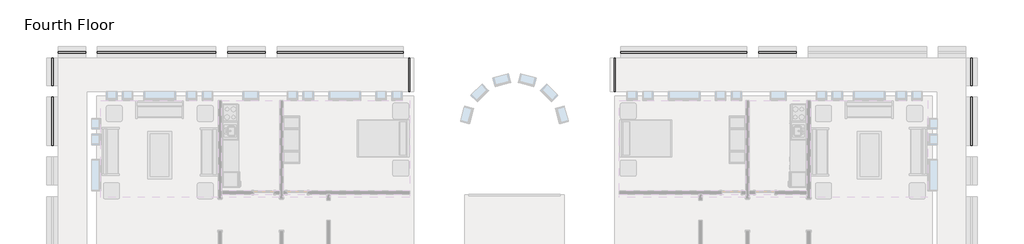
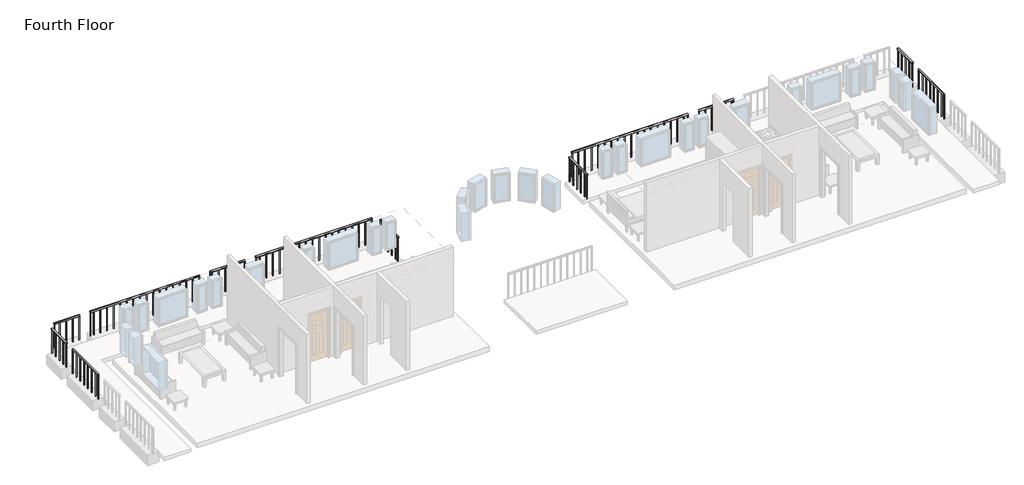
# One storey, part 6 of 8: 12 railings.
"""IFC4 building model written with IfcOpenShell, lengths in millimetres."""

from ifc_helpers import new_model, si_unit, frame, origin, place, context, project, spatial, polyline, outline, extrude, element, save

model = new_model("IFC4")

# Units and contexts
model_context = context("Model", 3, world=origin())
ifc_project = project(units=[si_unit("LENGTHUNIT", "METRE", prefix="MILLI")], contexts=[model_context])

# Site, building, storey
site = spatial("IfcSite", under=ifc_project)
building = spatial("IfcBuilding", under=site)
storey = spatial("IfcBuildingStorey", under=building, Name="Fourth Floor", Elevation=9144.0)

# Railings
placement = place(None, origin())
element("IfcRailing", 1, ObjectType="1100mm", at=placement, inside=storey, context=model_context, shape_type="SweptSolid", body=[
    extrude(outline(polyline([(-14885.3416203, 4231.1188386), (-14885.3416203, 4281.1188386), (-10043.3416203, 4281.1188386), (-10043.3416203, 4231.1188386), (-14885.3416203, 4231.1188386)])), frame((0.0, 0.0, 10194.0), z_axis=(0.0, 0.0, 1.0), x_axis=(1.0, 0.0, 0.0)), (0.0, 0.0, 1.0), 50.0),
    extrude(outline(polyline([(-10222.8416203, 4243.6188386), (-10222.8416203, 4268.6188386), (-10197.8416203, 4268.6188386), (-10197.8416203, 4243.6188386), (-10222.8416203, 4243.6188386)])), frame((0.0, 0.0, 9144.0), z_axis=(0.0, 0.0, 1.0), x_axis=(1.0, 0.0, 0.0)), (0.0, 0.0, 1.0), 1050.0),
    extrude(outline(polyline([(-10497.8416203, 4243.6188386), (-10497.8416203, 4268.6188386), (-10472.8416203, 4268.6188386), (-10472.8416203, 4243.6188386), (-10497.8416203, 4243.6188386)])), frame((0.0, 0.0, 9144.0), z_axis=(0.0, 0.0, 1.0), x_axis=(1.0, 0.0, 0.0)), (0.0, 0.0, 1.0), 1050.0),
    extrude(outline(polyline([(-10772.8416203, 4243.6188386), (-10772.8416203, 4268.6188386), (-10747.8416203, 4268.6188386), (-10747.8416203, 4243.6188386), (-10772.8416203, 4243.6188386)])), frame((0.0, 0.0, 9144.0), z_axis=(0.0, 0.0, 1.0), x_axis=(1.0, 0.0, 0.0)), (0.0, 0.0, 1.0), 1050.0),
    extrude(outline(polyline([(-11047.8416203, 4243.6188386), (-11047.8416203, 4268.6188386), (-11022.8416203, 4268.6188386), (-11022.8416203, 4243.6188386), (-11047.8416203, 4243.6188386)])), frame((0.0, 0.0, 9144.0), z_axis=(0.0, 0.0, 1.0), x_axis=(1.0, 0.0, 0.0)), (0.0, 0.0, 1.0), 1050.0),
    extrude(outline(polyline([(-11322.8416203, 4243.6188386), (-11322.8416203, 4268.6188386), (-11297.8416203, 4268.6188386), (-11297.8416203, 4243.6188386), (-11322.8416203, 4243.6188386)])), frame((0.0, 0.0, 9144.0), z_axis=(0.0, 0.0, 1.0), x_axis=(1.0, 0.0, 0.0)), (0.0, 0.0, 1.0), 1050.0),
    extrude(outline(polyline([(-11597.8416203, 4243.6188386), (-11597.8416203, 4268.6188386), (-11572.8416203, 4268.6188386), (-11572.8416203, 4243.6188386), (-11597.8416203, 4243.6188386)])), frame((0.0, 0.0, 9144.0), z_axis=(0.0, 0.0, 1.0), x_axis=(1.0, 0.0, 0.0)), (0.0, 0.0, 1.0), 1050.0),
    extrude(outline(polyline([(-11872.8416203, 4243.6188386), (-11872.8416203, 4268.6188386), (-11847.8416203, 4268.6188386), (-11847.8416203, 4243.6188386), (-11872.8416203, 4243.6188386)])), frame((0.0, 0.0, 9144.0), z_axis=(0.0, 0.0, 1.0), x_axis=(1.0, 0.0, 0.0)), (0.0, 0.0, 1.0), 1050.0),
    extrude(outline(polyline([(-12147.8416203, 4243.6188386), (-12147.8416203, 4268.6188386), (-12122.8416203, 4268.6188386), (-12122.8416203, 4243.6188386), (-12147.8416203, 4243.6188386)])), frame((0.0, 0.0, 9144.0), z_axis=(0.0, 0.0, 1.0), x_axis=(1.0, 0.0, 0.0)), (0.0, 0.0, 1.0), 1050.0),
    extrude(outline(polyline([(-12422.8416203, 4243.6188386), (-12422.8416203, 4268.6188386), (-12397.8416203, 4268.6188386), (-12397.8416203, 4243.6188386), (-12422.8416203, 4243.6188386)])), frame((0.0, 0.0, 9144.0), z_axis=(0.0, 0.0, 1.0), x_axis=(1.0, 0.0, 0.0)), (0.0, 0.0, 1.0), 1050.0),
    extrude(outline(polyline([(-12697.8416203, 4243.6188386), (-12697.8416203, 4268.6188386), (-12672.8416203, 4268.6188386), (-12672.8416203, 4243.6188386), (-12697.8416203, 4243.6188386)])), frame((0.0, 0.0, 9144.0), z_axis=(0.0, 0.0, 1.0), x_axis=(1.0, 0.0, 0.0)), (0.0, 0.0, 1.0), 1050.0),
    extrude(outline(polyline([(-12972.8416203, 4243.6188386), (-12972.8416203, 4268.6188386), (-12947.8416203, 4268.6188386), (-12947.8416203, 4243.6188386), (-12972.8416203, 4243.6188386)])), frame((0.0, 0.0, 9144.0), z_axis=(0.0, 0.0, 1.0), x_axis=(1.0, 0.0, 0.0)), (0.0, 0.0, 1.0), 1050.0),
    extrude(outline(polyline([(-13247.8416203, 4243.6188386), (-13247.8416203, 4268.6188386), (-13222.8416203, 4268.6188386), (-13222.8416203, 4243.6188386), (-13247.8416203, 4243.6188386)])), frame((0.0, 0.0, 9144.0), z_axis=(0.0, 0.0, 1.0), x_axis=(1.0, 0.0, 0.0)), (0.0, 0.0, 1.0), 1050.0),
    extrude(outline(polyline([(-13522.8416203, 4243.6188386), (-13522.8416203, 4268.6188386), (-13497.8416203, 4268.6188386), (-13497.8416203, 4243.6188386), (-13522.8416203, 4243.6188386)])), frame((0.0, 0.0, 9144.0), z_axis=(0.0, 0.0, 1.0), x_axis=(1.0, 0.0, 0.0)), (0.0, 0.0, 1.0), 1050.0),
    extrude(outline(polyline([(-13797.8416203, 4243.6188386), (-13797.8416203, 4268.6188386), (-13772.8416203, 4268.6188386), (-13772.8416203, 4243.6188386), (-13797.8416203, 4243.6188386)])), frame((0.0, 0.0, 9144.0), z_axis=(0.0, 0.0, 1.0), x_axis=(1.0, 0.0, 0.0)), (0.0, 0.0, 1.0), 1050.0),
    extrude(outline(polyline([(-14072.8416203, 4243.6188386), (-14072.8416203, 4268.6188386), (-14047.8416203, 4268.6188386), (-14047.8416203, 4243.6188386), (-14072.8416203, 4243.6188386)])), frame((0.0, 0.0, 9144.0), z_axis=(0.0, 0.0, 1.0), x_axis=(1.0, 0.0, 0.0)), (0.0, 0.0, 1.0), 1050.0),
    extrude(outline(polyline([(-14347.8416203, 4243.6188386), (-14347.8416203, 4268.6188386), (-14322.8416203, 4268.6188386), (-14322.8416203, 4243.6188386), (-14347.8416203, 4243.6188386)])), frame((0.0, 0.0, 9144.0), z_axis=(0.0, 0.0, 1.0), x_axis=(1.0, 0.0, 0.0)), (0.0, 0.0, 1.0), 1050.0),
    extrude(outline(polyline([(-14622.8416203, 4243.6188386), (-14622.8416203, 4268.6188386), (-14597.8416203, 4268.6188386), (-14597.8416203, 4243.6188386), (-14622.8416203, 4243.6188386)])), frame((0.0, 0.0, 9144.0), z_axis=(0.0, 0.0, 1.0), x_axis=(1.0, 0.0, 0.0)), (0.0, 0.0, 1.0), 1050.0),
    extrude(outline(polyline([(-10068.3416203, 4243.6188386), (-10068.3416203, 4268.6188386), (-10043.3416203, 4268.6188386), (-10043.3416203, 4243.6188386), (-10068.3416203, 4243.6188386)])), frame((0.0, 0.0, 9144.0), z_axis=(0.0, 0.0, 1.0), x_axis=(1.0, 0.0, 0.0)), (0.0, 0.0, 1.0), 1050.0),
    extrude(outline(polyline([(-14885.3416203, 4243.6188386), (-14885.3416203, 4268.6188386), (-14860.3416203, 4268.6188386), (-14860.3416203, 4243.6188386), (-14885.3416203, 4243.6188386)])), frame((0.0, 0.0, 9144.0), z_axis=(0.0, 0.0, 1.0), x_axis=(1.0, 0.0, 0.0)), (0.0, 0.0, 1.0), 1050.0),
])
element("IfcRailing", 2, ObjectType="1100mm", at=placement, inside=storey, context=model_context, shape_type="SweptSolid", body=[
    extrude(outline(polyline([(-9593.3416203, 4231.1188386), (-9593.3416203, 4281.1188386), (-8143.3416203, 4281.1188386), (-8143.3416203, 4231.1188386), (-9593.3416203, 4231.1188386)])), frame((0.0, 0.0, 10194.0), z_axis=(0.0, 0.0, 1.0), x_axis=(1.0, 0.0, 0.0)), (0.0, 0.0, 1.0), 50.0),
    extrude(outline(polyline([(-8230.8416203, 4243.6188386), (-8230.8416203, 4268.6188386), (-8205.8416203, 4268.6188386), (-8205.8416203, 4243.6188386), (-8230.8416203, 4243.6188386)])), frame((0.0, 0.0, 9144.0), z_axis=(0.0, 0.0, 1.0), x_axis=(1.0, 0.0, 0.0)), (0.0, 0.0, 1.0), 1050.0),
    extrude(outline(polyline([(-8505.8416203, 4243.6188386), (-8505.8416203, 4268.6188386), (-8480.8416203, 4268.6188386), (-8480.8416203, 4243.6188386), (-8505.8416203, 4243.6188386)])), frame((0.0, 0.0, 9144.0), z_axis=(0.0, 0.0, 1.0), x_axis=(1.0, 0.0, 0.0)), (0.0, 0.0, 1.0), 1050.0),
    extrude(outline(polyline([(-8780.8416203, 4243.6188386), (-8780.8416203, 4268.6188386), (-8755.8416203, 4268.6188386), (-8755.8416203, 4243.6188386), (-8780.8416203, 4243.6188386)])), frame((0.0, 0.0, 9144.0), z_axis=(0.0, 0.0, 1.0), x_axis=(1.0, 0.0, 0.0)), (0.0, 0.0, 1.0), 1050.0),
    extrude(outline(polyline([(-9055.8416203, 4243.6188386), (-9055.8416203, 4268.6188386), (-9030.8416203, 4268.6188386), (-9030.8416203, 4243.6188386), (-9055.8416203, 4243.6188386)])), frame((0.0, 0.0, 9144.0), z_axis=(0.0, 0.0, 1.0), x_axis=(1.0, 0.0, 0.0)), (0.0, 0.0, 1.0), 1050.0),
    extrude(outline(polyline([(-9330.8416203, 4243.6188386), (-9330.8416203, 4268.6188386), (-9305.8416203, 4268.6188386), (-9305.8416203, 4243.6188386), (-9330.8416203, 4243.6188386)])), frame((0.0, 0.0, 9144.0), z_axis=(0.0, 0.0, 1.0), x_axis=(1.0, 0.0, 0.0)), (0.0, 0.0, 1.0), 1050.0),
    extrude(outline(polyline([(-8168.3416203, 4243.6188386), (-8168.3416203, 4268.6188386), (-8143.3416203, 4268.6188386), (-8143.3416203, 4243.6188386), (-8168.3416203, 4243.6188386)])), frame((0.0, 0.0, 9144.0), z_axis=(0.0, 0.0, 1.0), x_axis=(1.0, 0.0, 0.0)), (0.0, 0.0, 1.0), 1050.0),
    extrude(outline(polyline([(-9593.3416203, 4243.6188386), (-9593.3416203, 4268.6188386), (-9568.3416203, 4268.6188386), (-9568.3416203, 4243.6188386), (-9593.3416203, 4243.6188386)])), frame((0.0, 0.0, 9144.0), z_axis=(0.0, 0.0, 1.0), x_axis=(1.0, 0.0, 0.0)), (0.0, 0.0, 1.0), 1050.0),
])
element("IfcRailing", 3, ObjectType="1100mm", at=placement, inside=storey, context=model_context, shape_type="SweptSolid", body=[
    extrude(outline(polyline([(-1443.3416203, 4031.1188386), (-1393.3416203, 4031.1188386), (-1393.3416203, 2981.1188386), (-1443.3416203, 2981.1188386), (-1443.3416203, 4031.1188386)])), frame((0.0, 0.0, 10194.0), z_axis=(0.0, 0.0, 1.0), x_axis=(1.0, 0.0, 0.0)), (0.0, 0.0, 1.0), 50.0),
    extrude(outline(polyline([(-1430.8416203, 3218.6188386), (-1405.8416203, 3218.6188386), (-1405.8416203, 3193.6188386), (-1430.8416203, 3193.6188386), (-1430.8416203, 3218.6188386)])), frame((0.0, 0.0, 9144.0), z_axis=(0.0, 0.0, 1.0), x_axis=(1.0, 0.0, 0.0)), (0.0, 0.0, 1.0), 1050.0),
    extrude(outline(polyline([(-1430.8416203, 3493.6188386), (-1405.8416203, 3493.6188386), (-1405.8416203, 3468.6188386), (-1430.8416203, 3468.6188386), (-1430.8416203, 3493.6188386)])), frame((0.0, 0.0, 9144.0), z_axis=(0.0, 0.0, 1.0), x_axis=(1.0, 0.0, 0.0)), (0.0, 0.0, 1.0), 1050.0),
    extrude(outline(polyline([(-1430.8416203, 3768.6188386), (-1405.8416203, 3768.6188386), (-1405.8416203, 3743.6188386), (-1430.8416203, 3743.6188386), (-1430.8416203, 3768.6188386)])), frame((0.0, 0.0, 9144.0), z_axis=(0.0, 0.0, 1.0), x_axis=(1.0, 0.0, 0.0)), (0.0, 0.0, 1.0), 1050.0),
    extrude(outline(polyline([(-1430.8416203, 3006.1188386), (-1405.8416203, 3006.1188386), (-1405.8416203, 2981.1188386), (-1430.8416203, 2981.1188386), (-1430.8416203, 3006.1188386)])), frame((0.0, 0.0, 9144.0), z_axis=(0.0, 0.0, 1.0), x_axis=(1.0, 0.0, 0.0)), (0.0, 0.0, 1.0), 1050.0),
    extrude(outline(polyline([(-1430.8416203, 4031.1188386), (-1405.8416203, 4031.1188386), (-1405.8416203, 4006.1188386), (-1430.8416203, 4006.1188386), (-1430.8416203, 4031.1188386)])), frame((0.0, 0.0, 9144.0), z_axis=(0.0, 0.0, 1.0), x_axis=(1.0, 0.0, 0.0)), (0.0, 0.0, 1.0), 1050.0),
])
element("IfcRailing", 4, ObjectType="1100mm", at=placement, inside=storey, context=model_context, shape_type="SweptSolid", body=[
    extrude(outline(polyline([(-1443.3416203, 2531.1188386), (-1393.3416203, 2531.1188386), (-1393.3416203, 681.1188386), (-1443.3416203, 681.1188386), (-1443.3416203, 2531.1188386)])), frame((0.0, 0.0, 10194.0), z_axis=(0.0, 0.0, 1.0), x_axis=(1.0, 0.0, 0.0)), (0.0, 0.0, 1.0), 50.0),
    extrude(outline(polyline([(-1430.8416203, 893.6188386), (-1405.8416203, 893.6188386), (-1405.8416203, 868.6188386), (-1430.8416203, 868.6188386), (-1430.8416203, 893.6188386)])), frame((0.0, 0.0, 9144.0), z_axis=(0.0, 0.0, 1.0), x_axis=(1.0, 0.0, 0.0)), (0.0, 0.0, 1.0), 1050.0),
    extrude(outline(polyline([(-1430.8416203, 1168.6188386), (-1405.8416203, 1168.6188386), (-1405.8416203, 1143.6188386), (-1430.8416203, 1143.6188386), (-1430.8416203, 1168.6188386)])), frame((0.0, 0.0, 9144.0), z_axis=(0.0, 0.0, 1.0), x_axis=(1.0, 0.0, 0.0)), (0.0, 0.0, 1.0), 1050.0),
    extrude(outline(polyline([(-1430.8416203, 1443.6188386), (-1405.8416203, 1443.6188386), (-1405.8416203, 1418.6188386), (-1430.8416203, 1418.6188386), (-1430.8416203, 1443.6188386)])), frame((0.0, 0.0, 9144.0), z_axis=(0.0, 0.0, 1.0), x_axis=(1.0, 0.0, 0.0)), (0.0, 0.0, 1.0), 1050.0),
    extrude(outline(polyline([(-1430.8416203, 1718.6188386), (-1405.8416203, 1718.6188386), (-1405.8416203, 1693.6188386), (-1430.8416203, 1693.6188386), (-1430.8416203, 1718.6188386)])), frame((0.0, 0.0, 9144.0), z_axis=(0.0, 0.0, 1.0), x_axis=(1.0, 0.0, 0.0)), (0.0, 0.0, 1.0), 1050.0),
    extrude(outline(polyline([(-1430.8416203, 1993.6188386), (-1405.8416203, 1993.6188386), (-1405.8416203, 1968.6188386), (-1430.8416203, 1968.6188386), (-1430.8416203, 1993.6188386)])), frame((0.0, 0.0, 9144.0), z_axis=(0.0, 0.0, 1.0), x_axis=(1.0, 0.0, 0.0)), (0.0, 0.0, 1.0), 1050.0),
    extrude(outline(polyline([(-1430.8416203, 2268.6188386), (-1405.8416203, 2268.6188386), (-1405.8416203, 2243.6188386), (-1430.8416203, 2243.6188386), (-1430.8416203, 2268.6188386)])), frame((0.0, 0.0, 9144.0), z_axis=(0.0, 0.0, 1.0), x_axis=(1.0, 0.0, 0.0)), (0.0, 0.0, 1.0), 1050.0),
    extrude(outline(polyline([(-1430.8416203, 706.1188386), (-1405.8416203, 706.1188386), (-1405.8416203, 681.1188386), (-1430.8416203, 681.1188386), (-1430.8416203, 706.1188386)])), frame((0.0, 0.0, 9144.0), z_axis=(0.0, 0.0, 1.0), x_axis=(1.0, 0.0, 0.0)), (0.0, 0.0, 1.0), 1050.0),
    extrude(outline(polyline([(-1430.8416203, 2531.1188386), (-1405.8416203, 2531.1188386), (-1405.8416203, 2506.1188386), (-1430.8416203, 2506.1188386), (-1430.8416203, 2531.1188386)])), frame((0.0, 0.0, 9144.0), z_axis=(0.0, 0.0, 1.0), x_axis=(1.0, 0.0, 0.0)), (0.0, 0.0, 1.0), 1050.0),
])
element("IfcRailing", 5, ObjectType="1100mm", at=placement, inside=storey, context=model_context, shape_type="SweptSolid", body=[
    extrude(outline(polyline([(-15135.3416203, 4031.1188386), (-15085.3416203, 4031.1188386), (-15085.3416203, 2756.1188386), (-15135.3416203, 2756.1188386), (-15135.3416203, 4031.1188386)])), frame((0.0, 0.0, 10194.0), z_axis=(0.0, 0.0, 1.0), x_axis=(1.0, 0.0, 0.0)), (0.0, 0.0, 1.0), 50.0),
    extrude(outline(polyline([(-15122.8416203, 2943.6188386), (-15097.8416203, 2943.6188386), (-15097.8416203, 2918.6188386), (-15122.8416203, 2918.6188386), (-15122.8416203, 2943.6188386)])), frame((0.0, 0.0, 9144.0), z_axis=(0.0, 0.0, 1.0), x_axis=(1.0, 0.0, 0.0)), (0.0, 0.0, 1.0), 1050.0),
    extrude(outline(polyline([(-15122.8416203, 3218.6188386), (-15097.8416203, 3218.6188386), (-15097.8416203, 3193.6188386), (-15122.8416203, 3193.6188386), (-15122.8416203, 3218.6188386)])), frame((0.0, 0.0, 9144.0), z_axis=(0.0, 0.0, 1.0), x_axis=(1.0, 0.0, 0.0)), (0.0, 0.0, 1.0), 1050.0),
    extrude(outline(polyline([(-15122.8416203, 3493.6188386), (-15097.8416203, 3493.6188386), (-15097.8416203, 3468.6188386), (-15122.8416203, 3468.6188386), (-15122.8416203, 3493.6188386)])), frame((0.0, 0.0, 9144.0), z_axis=(0.0, 0.0, 1.0), x_axis=(1.0, 0.0, 0.0)), (0.0, 0.0, 1.0), 1050.0),
    extrude(outline(polyline([(-15122.8416203, 3768.6188386), (-15097.8416203, 3768.6188386), (-15097.8416203, 3743.6188386), (-15122.8416203, 3743.6188386), (-15122.8416203, 3768.6188386)])), frame((0.0, 0.0, 9144.0), z_axis=(0.0, 0.0, 1.0), x_axis=(1.0, 0.0, 0.0)), (0.0, 0.0, 1.0), 1050.0),
    extrude(outline(polyline([(-15122.8416203, 2781.1188386), (-15097.8416203, 2781.1188386), (-15097.8416203, 2756.1188386), (-15122.8416203, 2756.1188386), (-15122.8416203, 2781.1188386)])), frame((0.0, 0.0, 9144.0), z_axis=(0.0, 0.0, 1.0), x_axis=(1.0, 0.0, 0.0)), (0.0, 0.0, 1.0), 1050.0),
    extrude(outline(polyline([(-15122.8416203, 4031.1188386), (-15097.8416203, 4031.1188386), (-15097.8416203, 4006.1188386), (-15122.8416203, 4006.1188386), (-15122.8416203, 4031.1188386)])), frame((0.0, 0.0, 9144.0), z_axis=(0.0, 0.0, 1.0), x_axis=(1.0, 0.0, 0.0)), (0.0, 0.0, 1.0), 1050.0),
])
element("IfcRailing", 6, ObjectType="1100mm", at=placement, inside=storey, context=model_context, shape_type="SweptSolid", body=[
    extrude(outline(polyline([(-23216.8416203, 4281.1188386), (-23216.8416203, 4231.1188386), (-28058.8416203, 4231.1188386), (-28058.8416203, 4281.1188386), (-23216.8416203, 4281.1188386)])), frame((0.0, 0.0, 10194.0), z_axis=(0.0, 0.0, 1.0), x_axis=(1.0, 0.0, 0.0)), (0.0, 0.0, 1.0), 50.0),
    extrude(outline(polyline([(-27879.3416203, 4243.6188386), (-27904.3416203, 4243.6188386), (-27904.3416203, 4268.6188386), (-27879.3416203, 4268.6188386), (-27879.3416203, 4243.6188386)])), frame((0.0, 0.0, 9144.0), z_axis=(0.0, 0.0, 1.0), x_axis=(1.0, 0.0, 0.0)), (0.0, 0.0, 1.0), 1050.0),
    extrude(outline(polyline([(-27604.3416203, 4243.6188386), (-27629.3416203, 4243.6188386), (-27629.3416203, 4268.6188386), (-27604.3416203, 4268.6188386), (-27604.3416203, 4243.6188386)])), frame((0.0, 0.0, 9144.0), z_axis=(0.0, 0.0, 1.0), x_axis=(1.0, 0.0, 0.0)), (0.0, 0.0, 1.0), 1050.0),
    extrude(outline(polyline([(-27329.3416203, 4243.6188386), (-27354.3416203, 4243.6188386), (-27354.3416203, 4268.6188386), (-27329.3416203, 4268.6188386), (-27329.3416203, 4243.6188386)])), frame((0.0, 0.0, 9144.0), z_axis=(0.0, 0.0, 1.0), x_axis=(1.0, 0.0, 0.0)), (0.0, 0.0, 1.0), 1050.0),
    extrude(outline(polyline([(-27054.3416203, 4243.6188386), (-27079.3416203, 4243.6188386), (-27079.3416203, 4268.6188386), (-27054.3416203, 4268.6188386), (-27054.3416203, 4243.6188386)])), frame((0.0, 0.0, 9144.0), z_axis=(0.0, 0.0, 1.0), x_axis=(1.0, 0.0, 0.0)), (0.0, 0.0, 1.0), 1050.0),
    extrude(outline(polyline([(-26779.3416203, 4243.6188386), (-26804.3416203, 4243.6188386), (-26804.3416203, 4268.6188386), (-26779.3416203, 4268.6188386), (-26779.3416203, 4243.6188386)])), frame((0.0, 0.0, 9144.0), z_axis=(0.0, 0.0, 1.0), x_axis=(1.0, 0.0, 0.0)), (0.0, 0.0, 1.0), 1050.0),
    extrude(outline(polyline([(-26504.3416203, 4243.6188386), (-26529.3416203, 4243.6188386), (-26529.3416203, 4268.6188386), (-26504.3416203, 4268.6188386), (-26504.3416203, 4243.6188386)])), frame((0.0, 0.0, 9144.0), z_axis=(0.0, 0.0, 1.0), x_axis=(1.0, 0.0, 0.0)), (0.0, 0.0, 1.0), 1050.0),
    extrude(outline(polyline([(-26229.3416203, 4243.6188386), (-26254.3416203, 4243.6188386), (-26254.3416203, 4268.6188386), (-26229.3416203, 4268.6188386), (-26229.3416203, 4243.6188386)])), frame((0.0, 0.0, 9144.0), z_axis=(0.0, 0.0, 1.0), x_axis=(1.0, 0.0, 0.0)), (0.0, 0.0, 1.0), 1050.0),
    extrude(outline(polyline([(-25954.3416203, 4243.6188386), (-25979.3416203, 4243.6188386), (-25979.3416203, 4268.6188386), (-25954.3416203, 4268.6188386), (-25954.3416203, 4243.6188386)])), frame((0.0, 0.0, 9144.0), z_axis=(0.0, 0.0, 1.0), x_axis=(1.0, 0.0, 0.0)), (0.0, 0.0, 1.0), 1050.0),
    extrude(outline(polyline([(-25679.3416203, 4243.6188386), (-25704.3416203, 4243.6188386), (-25704.3416203, 4268.6188386), (-25679.3416203, 4268.6188386), (-25679.3416203, 4243.6188386)])), frame((0.0, 0.0, 9144.0), z_axis=(0.0, 0.0, 1.0), x_axis=(1.0, 0.0, 0.0)), (0.0, 0.0, 1.0), 1050.0),
    extrude(outline(polyline([(-25404.3416203, 4243.6188386), (-25429.3416203, 4243.6188386), (-25429.3416203, 4268.6188386), (-25404.3416203, 4268.6188386), (-25404.3416203, 4243.6188386)])), frame((0.0, 0.0, 9144.0), z_axis=(0.0, 0.0, 1.0), x_axis=(1.0, 0.0, 0.0)), (0.0, 0.0, 1.0), 1050.0),
    extrude(outline(polyline([(-25129.3416203, 4243.6188386), (-25154.3416203, 4243.6188386), (-25154.3416203, 4268.6188386), (-25129.3416203, 4268.6188386), (-25129.3416203, 4243.6188386)])), frame((0.0, 0.0, 9144.0), z_axis=(0.0, 0.0, 1.0), x_axis=(1.0, 0.0, 0.0)), (0.0, 0.0, 1.0), 1050.0),
    extrude(outline(polyline([(-24854.3416203, 4243.6188386), (-24879.3416203, 4243.6188386), (-24879.3416203, 4268.6188386), (-24854.3416203, 4268.6188386), (-24854.3416203, 4243.6188386)])), frame((0.0, 0.0, 9144.0), z_axis=(0.0, 0.0, 1.0), x_axis=(1.0, 0.0, 0.0)), (0.0, 0.0, 1.0), 1050.0),
    extrude(outline(polyline([(-24579.3416203, 4243.6188386), (-24604.3416203, 4243.6188386), (-24604.3416203, 4268.6188386), (-24579.3416203, 4268.6188386), (-24579.3416203, 4243.6188386)])), frame((0.0, 0.0, 9144.0), z_axis=(0.0, 0.0, 1.0), x_axis=(1.0, 0.0, 0.0)), (0.0, 0.0, 1.0), 1050.0),
    extrude(outline(polyline([(-24304.3416203, 4243.6188386), (-24329.3416203, 4243.6188386), (-24329.3416203, 4268.6188386), (-24304.3416203, 4268.6188386), (-24304.3416203, 4243.6188386)])), frame((0.0, 0.0, 9144.0), z_axis=(0.0, 0.0, 1.0), x_axis=(1.0, 0.0, 0.0)), (0.0, 0.0, 1.0), 1050.0),
    extrude(outline(polyline([(-24029.3416203, 4243.6188386), (-24054.3416203, 4243.6188386), (-24054.3416203, 4268.6188386), (-24029.3416203, 4268.6188386), (-24029.3416203, 4243.6188386)])), frame((0.0, 0.0, 9144.0), z_axis=(0.0, 0.0, 1.0), x_axis=(1.0, 0.0, 0.0)), (0.0, 0.0, 1.0), 1050.0),
    extrude(outline(polyline([(-23754.3416203, 4243.6188386), (-23779.3416203, 4243.6188386), (-23779.3416203, 4268.6188386), (-23754.3416203, 4268.6188386), (-23754.3416203, 4243.6188386)])), frame((0.0, 0.0, 9144.0), z_axis=(0.0, 0.0, 1.0), x_axis=(1.0, 0.0, 0.0)), (0.0, 0.0, 1.0), 1050.0),
    extrude(outline(polyline([(-23479.3416203, 4243.6188386), (-23504.3416203, 4243.6188386), (-23504.3416203, 4268.6188386), (-23479.3416203, 4268.6188386), (-23479.3416203, 4243.6188386)])), frame((0.0, 0.0, 9144.0), z_axis=(0.0, 0.0, 1.0), x_axis=(1.0, 0.0, 0.0)), (0.0, 0.0, 1.0), 1050.0),
    extrude(outline(polyline([(-28033.8416203, 4243.6188386), (-28058.8416203, 4243.6188386), (-28058.8416203, 4268.6188386), (-28033.8416203, 4268.6188386), (-28033.8416203, 4243.6188386)])), frame((0.0, 0.0, 9144.0), z_axis=(0.0, 0.0, 1.0), x_axis=(1.0, 0.0, 0.0)), (0.0, 0.0, 1.0), 1050.0),
    extrude(outline(polyline([(-23216.8416203, 4243.6188386), (-23241.8416203, 4243.6188386), (-23241.8416203, 4268.6188386), (-23216.8416203, 4268.6188386), (-23216.8416203, 4243.6188386)])), frame((0.0, 0.0, 9144.0), z_axis=(0.0, 0.0, 1.0), x_axis=(1.0, 0.0, 0.0)), (0.0, 0.0, 1.0), 1050.0),
])
element("IfcRailing", 7, ObjectType="1100mm", at=placement, inside=storey, context=model_context, shape_type="SweptSolid", body=[
    extrude(outline(polyline([(-28508.8416203, 4281.1188386), (-28508.8416203, 4231.1188386), (-29958.8416203, 4231.1188386), (-29958.8416203, 4281.1188386), (-28508.8416203, 4281.1188386)])), frame((0.0, 0.0, 10194.0), z_axis=(0.0, 0.0, 1.0), x_axis=(1.0, 0.0, 0.0)), (0.0, 0.0, 1.0), 50.0),
    extrude(outline(polyline([(-29871.3416203, 4243.6188386), (-29896.3416203, 4243.6188386), (-29896.3416203, 4268.6188386), (-29871.3416203, 4268.6188386), (-29871.3416203, 4243.6188386)])), frame((0.0, 0.0, 9144.0), z_axis=(0.0, 0.0, 1.0), x_axis=(1.0, 0.0, 0.0)), (0.0, 0.0, 1.0), 1050.0),
    extrude(outline(polyline([(-29596.3416203, 4243.6188386), (-29621.3416203, 4243.6188386), (-29621.3416203, 4268.6188386), (-29596.3416203, 4268.6188386), (-29596.3416203, 4243.6188386)])), frame((0.0, 0.0, 9144.0), z_axis=(0.0, 0.0, 1.0), x_axis=(1.0, 0.0, 0.0)), (0.0, 0.0, 1.0), 1050.0),
    extrude(outline(polyline([(-29321.3416203, 4243.6188386), (-29346.3416203, 4243.6188386), (-29346.3416203, 4268.6188386), (-29321.3416203, 4268.6188386), (-29321.3416203, 4243.6188386)])), frame((0.0, 0.0, 9144.0), z_axis=(0.0, 0.0, 1.0), x_axis=(1.0, 0.0, 0.0)), (0.0, 0.0, 1.0), 1050.0),
    extrude(outline(polyline([(-29046.3416203, 4243.6188386), (-29071.3416203, 4243.6188386), (-29071.3416203, 4268.6188386), (-29046.3416203, 4268.6188386), (-29046.3416203, 4243.6188386)])), frame((0.0, 0.0, 9144.0), z_axis=(0.0, 0.0, 1.0), x_axis=(1.0, 0.0, 0.0)), (0.0, 0.0, 1.0), 1050.0),
    extrude(outline(polyline([(-28771.3416203, 4243.6188386), (-28796.3416203, 4243.6188386), (-28796.3416203, 4268.6188386), (-28771.3416203, 4268.6188386), (-28771.3416203, 4243.6188386)])), frame((0.0, 0.0, 9144.0), z_axis=(0.0, 0.0, 1.0), x_axis=(1.0, 0.0, 0.0)), (0.0, 0.0, 1.0), 1050.0),
    extrude(outline(polyline([(-29933.8416203, 4243.6188386), (-29958.8416203, 4243.6188386), (-29958.8416203, 4268.6188386), (-29933.8416203, 4268.6188386), (-29933.8416203, 4243.6188386)])), frame((0.0, 0.0, 9144.0), z_axis=(0.0, 0.0, 1.0), x_axis=(1.0, 0.0, 0.0)), (0.0, 0.0, 1.0), 1050.0),
    extrude(outline(polyline([(-28508.8416203, 4243.6188386), (-28533.8416203, 4243.6188386), (-28533.8416203, 4268.6188386), (-28508.8416203, 4268.6188386), (-28508.8416203, 4243.6188386)])), frame((0.0, 0.0, 9144.0), z_axis=(0.0, 0.0, 1.0), x_axis=(1.0, 0.0, 0.0)), (0.0, 0.0, 1.0), 1050.0),
])
element("IfcRailing", 8, ObjectType="1100mm", at=placement, inside=storey, context=model_context, shape_type="SweptSolid", body=[
    extrude(outline(polyline([(-30408.8416203, 4281.1188386), (-30408.8416203, 4231.1188386), (-34958.8416203, 4231.1188386), (-34958.8416203, 4281.1188386), (-30408.8416203, 4281.1188386)])), frame((0.0, 0.0, 10194.0), z_axis=(0.0, 0.0, 1.0), x_axis=(1.0, 0.0, 0.0)), (0.0, 0.0, 1.0), 50.0),
    extrude(outline(polyline([(-34796.3416203, 4243.6188386), (-34821.3416203, 4243.6188386), (-34821.3416203, 4268.6188386), (-34796.3416203, 4268.6188386), (-34796.3416203, 4243.6188386)])), frame((0.0, 0.0, 9144.0), z_axis=(0.0, 0.0, 1.0), x_axis=(1.0, 0.0, 0.0)), (0.0, 0.0, 1.0), 1050.0),
    extrude(outline(polyline([(-34521.3416203, 4243.6188386), (-34546.3416203, 4243.6188386), (-34546.3416203, 4268.6188386), (-34521.3416203, 4268.6188386), (-34521.3416203, 4243.6188386)])), frame((0.0, 0.0, 9144.0), z_axis=(0.0, 0.0, 1.0), x_axis=(1.0, 0.0, 0.0)), (0.0, 0.0, 1.0), 1050.0),
    extrude(outline(polyline([(-34246.3416203, 4243.6188386), (-34271.3416203, 4243.6188386), (-34271.3416203, 4268.6188386), (-34246.3416203, 4268.6188386), (-34246.3416203, 4243.6188386)])), frame((0.0, 0.0, 9144.0), z_axis=(0.0, 0.0, 1.0), x_axis=(1.0, 0.0, 0.0)), (0.0, 0.0, 1.0), 1050.0),
    extrude(outline(polyline([(-33971.3416203, 4243.6188386), (-33996.3416203, 4243.6188386), (-33996.3416203, 4268.6188386), (-33971.3416203, 4268.6188386), (-33971.3416203, 4243.6188386)])), frame((0.0, 0.0, 9144.0), z_axis=(0.0, 0.0, 1.0), x_axis=(1.0, 0.0, 0.0)), (0.0, 0.0, 1.0), 1050.0),
    extrude(outline(polyline([(-33696.3416203, 4243.6188386), (-33721.3416203, 4243.6188386), (-33721.3416203, 4268.6188386), (-33696.3416203, 4268.6188386), (-33696.3416203, 4243.6188386)])), frame((0.0, 0.0, 9144.0), z_axis=(0.0, 0.0, 1.0), x_axis=(1.0, 0.0, 0.0)), (0.0, 0.0, 1.0), 1050.0),
    extrude(outline(polyline([(-33421.3416203, 4243.6188386), (-33446.3416203, 4243.6188386), (-33446.3416203, 4268.6188386), (-33421.3416203, 4268.6188386), (-33421.3416203, 4243.6188386)])), frame((0.0, 0.0, 9144.0), z_axis=(0.0, 0.0, 1.0), x_axis=(1.0, 0.0, 0.0)), (0.0, 0.0, 1.0), 1050.0),
    extrude(outline(polyline([(-33146.3416203, 4243.6188386), (-33171.3416203, 4243.6188386), (-33171.3416203, 4268.6188386), (-33146.3416203, 4268.6188386), (-33146.3416203, 4243.6188386)])), frame((0.0, 0.0, 9144.0), z_axis=(0.0, 0.0, 1.0), x_axis=(1.0, 0.0, 0.0)), (0.0, 0.0, 1.0), 1050.0),
    extrude(outline(polyline([(-32871.3416203, 4243.6188386), (-32896.3416203, 4243.6188386), (-32896.3416203, 4268.6188386), (-32871.3416203, 4268.6188386), (-32871.3416203, 4243.6188386)])), frame((0.0, 0.0, 9144.0), z_axis=(0.0, 0.0, 1.0), x_axis=(1.0, 0.0, 0.0)), (0.0, 0.0, 1.0), 1050.0),
    extrude(outline(polyline([(-32596.3416203, 4243.6188386), (-32621.3416203, 4243.6188386), (-32621.3416203, 4268.6188386), (-32596.3416203, 4268.6188386), (-32596.3416203, 4243.6188386)])), frame((0.0, 0.0, 9144.0), z_axis=(0.0, 0.0, 1.0), x_axis=(1.0, 0.0, 0.0)), (0.0, 0.0, 1.0), 1050.0),
    extrude(outline(polyline([(-32321.3416203, 4243.6188386), (-32346.3416203, 4243.6188386), (-32346.3416203, 4268.6188386), (-32321.3416203, 4268.6188386), (-32321.3416203, 4243.6188386)])), frame((0.0, 0.0, 9144.0), z_axis=(0.0, 0.0, 1.0), x_axis=(1.0, 0.0, 0.0)), (0.0, 0.0, 1.0), 1050.0),
    extrude(outline(polyline([(-32046.3416203, 4243.6188386), (-32071.3416203, 4243.6188386), (-32071.3416203, 4268.6188386), (-32046.3416203, 4268.6188386), (-32046.3416203, 4243.6188386)])), frame((0.0, 0.0, 9144.0), z_axis=(0.0, 0.0, 1.0), x_axis=(1.0, 0.0, 0.0)), (0.0, 0.0, 1.0), 1050.0),
    extrude(outline(polyline([(-31771.3416203, 4243.6188386), (-31796.3416203, 4243.6188386), (-31796.3416203, 4268.6188386), (-31771.3416203, 4268.6188386), (-31771.3416203, 4243.6188386)])), frame((0.0, 0.0, 9144.0), z_axis=(0.0, 0.0, 1.0), x_axis=(1.0, 0.0, 0.0)), (0.0, 0.0, 1.0), 1050.0),
    extrude(outline(polyline([(-31496.3416203, 4243.6188386), (-31521.3416203, 4243.6188386), (-31521.3416203, 4268.6188386), (-31496.3416203, 4268.6188386), (-31496.3416203, 4243.6188386)])), frame((0.0, 0.0, 9144.0), z_axis=(0.0, 0.0, 1.0), x_axis=(1.0, 0.0, 0.0)), (0.0, 0.0, 1.0), 1050.0),
    extrude(outline(polyline([(-31221.3416203, 4243.6188386), (-31246.3416203, 4243.6188386), (-31246.3416203, 4268.6188386), (-31221.3416203, 4268.6188386), (-31221.3416203, 4243.6188386)])), frame((0.0, 0.0, 9144.0), z_axis=(0.0, 0.0, 1.0), x_axis=(1.0, 0.0, 0.0)), (0.0, 0.0, 1.0), 1050.0),
    extrude(outline(polyline([(-30946.3416203, 4243.6188386), (-30971.3416203, 4243.6188386), (-30971.3416203, 4268.6188386), (-30946.3416203, 4268.6188386), (-30946.3416203, 4243.6188386)])), frame((0.0, 0.0, 9144.0), z_axis=(0.0, 0.0, 1.0), x_axis=(1.0, 0.0, 0.0)), (0.0, 0.0, 1.0), 1050.0),
    extrude(outline(polyline([(-30671.3416203, 4243.6188386), (-30696.3416203, 4243.6188386), (-30696.3416203, 4268.6188386), (-30671.3416203, 4268.6188386), (-30671.3416203, 4243.6188386)])), frame((0.0, 0.0, 9144.0), z_axis=(0.0, 0.0, 1.0), x_axis=(1.0, 0.0, 0.0)), (0.0, 0.0, 1.0), 1050.0),
    extrude(outline(polyline([(-34933.8416203, 4243.6188386), (-34958.8416203, 4243.6188386), (-34958.8416203, 4268.6188386), (-34933.8416203, 4268.6188386), (-34933.8416203, 4243.6188386)])), frame((0.0, 0.0, 9144.0), z_axis=(0.0, 0.0, 1.0), x_axis=(1.0, 0.0, 0.0)), (0.0, 0.0, 1.0), 1050.0),
    extrude(outline(polyline([(-30408.8416203, 4243.6188386), (-30433.8416203, 4243.6188386), (-30433.8416203, 4268.6188386), (-30408.8416203, 4268.6188386), (-30408.8416203, 4243.6188386)])), frame((0.0, 0.0, 9144.0), z_axis=(0.0, 0.0, 1.0), x_axis=(1.0, 0.0, 0.0)), (0.0, 0.0, 1.0), 1050.0),
])
element("IfcRailing", 9, ObjectType="1100mm", at=placement, inside=storey, context=model_context, shape_type="SweptSolid", body=[
    extrude(outline(polyline([(-35408.8416203, 4281.1188386), (-35408.8416203, 4231.1188386), (-36458.8416203, 4231.1188386), (-36458.8416203, 4281.1188386), (-35408.8416203, 4281.1188386)])), frame((0.0, 0.0, 10194.0), z_axis=(0.0, 0.0, 1.0), x_axis=(1.0, 0.0, 0.0)), (0.0, 0.0, 1.0), 50.0),
    extrude(outline(polyline([(-36221.3416203, 4243.6188386), (-36246.3416203, 4243.6188386), (-36246.3416203, 4268.6188386), (-36221.3416203, 4268.6188386), (-36221.3416203, 4243.6188386)])), frame((0.0, 0.0, 9144.0), z_axis=(0.0, 0.0, 1.0), x_axis=(1.0, 0.0, 0.0)), (0.0, 0.0, 1.0), 1050.0),
    extrude(outline(polyline([(-35946.3416203, 4243.6188386), (-35971.3416203, 4243.6188386), (-35971.3416203, 4268.6188386), (-35946.3416203, 4268.6188386), (-35946.3416203, 4243.6188386)])), frame((0.0, 0.0, 9144.0), z_axis=(0.0, 0.0, 1.0), x_axis=(1.0, 0.0, 0.0)), (0.0, 0.0, 1.0), 1050.0),
    extrude(outline(polyline([(-35671.3416203, 4243.6188386), (-35696.3416203, 4243.6188386), (-35696.3416203, 4268.6188386), (-35671.3416203, 4268.6188386), (-35671.3416203, 4243.6188386)])), frame((0.0, 0.0, 9144.0), z_axis=(0.0, 0.0, 1.0), x_axis=(1.0, 0.0, 0.0)), (0.0, 0.0, 1.0), 1050.0),
    extrude(outline(polyline([(-36433.8416203, 4243.6188386), (-36458.8416203, 4243.6188386), (-36458.8416203, 4268.6188386), (-36433.8416203, 4268.6188386), (-36433.8416203, 4243.6188386)])), frame((0.0, 0.0, 9144.0), z_axis=(0.0, 0.0, 1.0), x_axis=(1.0, 0.0, 0.0)), (0.0, 0.0, 1.0), 1050.0),
    extrude(outline(polyline([(-35408.8416203, 4243.6188386), (-35433.8416203, 4243.6188386), (-35433.8416203, 4268.6188386), (-35408.8416203, 4268.6188386), (-35408.8416203, 4243.6188386)])), frame((0.0, 0.0, 9144.0), z_axis=(0.0, 0.0, 1.0), x_axis=(1.0, 0.0, 0.0)), (0.0, 0.0, 1.0), 1050.0),
])
element("IfcRailing", 10, ObjectType="1100mm", at=placement, inside=storey, context=model_context, shape_type="SweptSolid", body=[
    extrude(outline(polyline([(-36708.8416203, 4031.1188386), (-36658.8416203, 4031.1188386), (-36658.8416203, 2981.1188386), (-36708.8416203, 2981.1188386), (-36708.8416203, 4031.1188386)])), frame((0.0, 0.0, 10194.0), z_axis=(0.0, 0.0, 1.0), x_axis=(1.0, 0.0, 0.0)), (0.0, 0.0, 1.0), 50.0),
    extrude(outline(polyline([(-36671.3416203, 3218.6188386), (-36671.3416203, 3193.6188386), (-36696.3416203, 3193.6188386), (-36696.3416203, 3218.6188386), (-36671.3416203, 3218.6188386)])), frame((0.0, 0.0, 9144.0), z_axis=(0.0, 0.0, 1.0), x_axis=(1.0, 0.0, 0.0)), (0.0, 0.0, 1.0), 1050.0),
    extrude(outline(polyline([(-36671.3416203, 3493.6188386), (-36671.3416203, 3468.6188386), (-36696.3416203, 3468.6188386), (-36696.3416203, 3493.6188386), (-36671.3416203, 3493.6188386)])), frame((0.0, 0.0, 9144.0), z_axis=(0.0, 0.0, 1.0), x_axis=(1.0, 0.0, 0.0)), (0.0, 0.0, 1.0), 1050.0),
    extrude(outline(polyline([(-36671.3416203, 3768.6188386), (-36671.3416203, 3743.6188386), (-36696.3416203, 3743.6188386), (-36696.3416203, 3768.6188386), (-36671.3416203, 3768.6188386)])), frame((0.0, 0.0, 9144.0), z_axis=(0.0, 0.0, 1.0), x_axis=(1.0, 0.0, 0.0)), (0.0, 0.0, 1.0), 1050.0),
    extrude(outline(polyline([(-36671.3416203, 3006.1188386), (-36671.3416203, 2981.1188386), (-36696.3416203, 2981.1188386), (-36696.3416203, 3006.1188386), (-36671.3416203, 3006.1188386)])), frame((0.0, 0.0, 9144.0), z_axis=(0.0, 0.0, 1.0), x_axis=(1.0, 0.0, 0.0)), (0.0, 0.0, 1.0), 1050.0),
    extrude(outline(polyline([(-36671.3416203, 4031.1188386), (-36671.3416203, 4006.1188386), (-36696.3416203, 4006.1188386), (-36696.3416203, 4031.1188386), (-36671.3416203, 4031.1188386)])), frame((0.0, 0.0, 9144.0), z_axis=(0.0, 0.0, 1.0), x_axis=(1.0, 0.0, 0.0)), (0.0, 0.0, 1.0), 1050.0),
])
element("IfcRailing", 11, ObjectType="1100mm", at=placement, inside=storey, context=model_context, shape_type="SweptSolid", body=[
    extrude(outline(polyline([(-36708.8416203, 2531.1188386), (-36658.8416203, 2531.1188386), (-36658.8416203, 681.1188386), (-36708.8416203, 681.1188386), (-36708.8416203, 2531.1188386)])), frame((0.0, 0.0, 10194.0), z_axis=(0.0, 0.0, 1.0), x_axis=(1.0, 0.0, 0.0)), (0.0, 0.0, 1.0), 50.0),
    extrude(outline(polyline([(-36671.3416203, 893.6188386), (-36671.3416203, 868.6188386), (-36696.3416203, 868.6188386), (-36696.3416203, 893.6188386), (-36671.3416203, 893.6188386)])), frame((0.0, 0.0, 9144.0), z_axis=(0.0, 0.0, 1.0), x_axis=(1.0, 0.0, 0.0)), (0.0, 0.0, 1.0), 1050.0),
    extrude(outline(polyline([(-36671.3416203, 1168.6188386), (-36671.3416203, 1143.6188386), (-36696.3416203, 1143.6188386), (-36696.3416203, 1168.6188386), (-36671.3416203, 1168.6188386)])), frame((0.0, 0.0, 9144.0), z_axis=(0.0, 0.0, 1.0), x_axis=(1.0, 0.0, 0.0)), (0.0, 0.0, 1.0), 1050.0),
    extrude(outline(polyline([(-36671.3416203, 1443.6188386), (-36671.3416203, 1418.6188386), (-36696.3416203, 1418.6188386), (-36696.3416203, 1443.6188386), (-36671.3416203, 1443.6188386)])), frame((0.0, 0.0, 9144.0), z_axis=(0.0, 0.0, 1.0), x_axis=(1.0, 0.0, 0.0)), (0.0, 0.0, 1.0), 1050.0),
    extrude(outline(polyline([(-36671.3416203, 1718.6188386), (-36671.3416203, 1693.6188386), (-36696.3416203, 1693.6188386), (-36696.3416203, 1718.6188386), (-36671.3416203, 1718.6188386)])), frame((0.0, 0.0, 9144.0), z_axis=(0.0, 0.0, 1.0), x_axis=(1.0, 0.0, 0.0)), (0.0, 0.0, 1.0), 1050.0),
    extrude(outline(polyline([(-36671.3416203, 1993.6188386), (-36671.3416203, 1968.6188386), (-36696.3416203, 1968.6188386), (-36696.3416203, 1993.6188386), (-36671.3416203, 1993.6188386)])), frame((0.0, 0.0, 9144.0), z_axis=(0.0, 0.0, 1.0), x_axis=(1.0, 0.0, 0.0)), (0.0, 0.0, 1.0), 1050.0),
    extrude(outline(polyline([(-36671.3416203, 2268.6188386), (-36671.3416203, 2243.6188386), (-36696.3416203, 2243.6188386), (-36696.3416203, 2268.6188386), (-36671.3416203, 2268.6188386)])), frame((0.0, 0.0, 9144.0), z_axis=(0.0, 0.0, 1.0), x_axis=(1.0, 0.0, 0.0)), (0.0, 0.0, 1.0), 1050.0),
    extrude(outline(polyline([(-36671.3416203, 706.1188386), (-36671.3416203, 681.1188386), (-36696.3416203, 681.1188386), (-36696.3416203, 706.1188386), (-36671.3416203, 706.1188386)])), frame((0.0, 0.0, 9144.0), z_axis=(0.0, 0.0, 1.0), x_axis=(1.0, 0.0, 0.0)), (0.0, 0.0, 1.0), 1050.0),
    extrude(outline(polyline([(-36671.3416203, 2531.1188386), (-36671.3416203, 2506.1188386), (-36696.3416203, 2506.1188386), (-36696.3416203, 2531.1188386), (-36671.3416203, 2531.1188386)])), frame((0.0, 0.0, 9144.0), z_axis=(0.0, 0.0, 1.0), x_axis=(1.0, 0.0, 0.0)), (0.0, 0.0, 1.0), 1050.0),
])
element("IfcRailing", 12, ObjectType="1100mm", at=placement, inside=storey, context=model_context, shape_type="SweptSolid", body=[
    extrude(outline(polyline([(-23016.8416203, 4031.1188386), (-22966.8416203, 4031.1188386), (-22966.8416203, 2756.1188386), (-23016.8416203, 2756.1188386), (-23016.8416203, 4031.1188386)])), frame((0.0, 0.0, 10194.0), z_axis=(0.0, 0.0, 1.0), x_axis=(1.0, 0.0, 0.0)), (0.0, 0.0, 1.0), 50.0),
    extrude(outline(polyline([(-22979.3416203, 2943.6188386), (-22979.3416203, 2918.6188386), (-23004.3416203, 2918.6188386), (-23004.3416203, 2943.6188386), (-22979.3416203, 2943.6188386)])), frame((0.0, 0.0, 9144.0), z_axis=(0.0, 0.0, 1.0), x_axis=(1.0, 0.0, 0.0)), (0.0, 0.0, 1.0), 1050.0),
    extrude(outline(polyline([(-22979.3416203, 3218.6188386), (-22979.3416203, 3193.6188386), (-23004.3416203, 3193.6188386), (-23004.3416203, 3218.6188386), (-22979.3416203, 3218.6188386)])), frame((0.0, 0.0, 9144.0), z_axis=(0.0, 0.0, 1.0), x_axis=(1.0, 0.0, 0.0)), (0.0, 0.0, 1.0), 1050.0),
    extrude(outline(polyline([(-22979.3416203, 3493.6188386), (-22979.3416203, 3468.6188386), (-23004.3416203, 3468.6188386), (-23004.3416203, 3493.6188386), (-22979.3416203, 3493.6188386)])), frame((0.0, 0.0, 9144.0), z_axis=(0.0, 0.0, 1.0), x_axis=(1.0, 0.0, 0.0)), (0.0, 0.0, 1.0), 1050.0),
    extrude(outline(polyline([(-22979.3416203, 3768.6188386), (-22979.3416203, 3743.6188386), (-23004.3416203, 3743.6188386), (-23004.3416203, 3768.6188386), (-22979.3416203, 3768.6188386)])), frame((0.0, 0.0, 9144.0), z_axis=(0.0, 0.0, 1.0), x_axis=(1.0, 0.0, 0.0)), (0.0, 0.0, 1.0), 1050.0),
    extrude(outline(polyline([(-22979.3416203, 2781.1188386), (-22979.3416203, 2756.1188386), (-23004.3416203, 2756.1188386), (-23004.3416203, 2781.1188386), (-22979.3416203, 2781.1188386)])), frame((0.0, 0.0, 9144.0), z_axis=(0.0, 0.0, 1.0), x_axis=(1.0, 0.0, 0.0)), (0.0, 0.0, 1.0), 1050.0),
    extrude(outline(polyline([(-22979.3416203, 4031.1188386), (-22979.3416203, 4006.1188386), (-23004.3416203, 4006.1188386), (-23004.3416203, 4031.1188386), (-22979.3416203, 4031.1188386)])), frame((0.0, 0.0, 9144.0), z_axis=(0.0, 0.0, 1.0), x_axis=(1.0, 0.0, 0.0)), (0.0, 0.0, 1.0), 1050.0),
])

save(model, "model.ifc")
